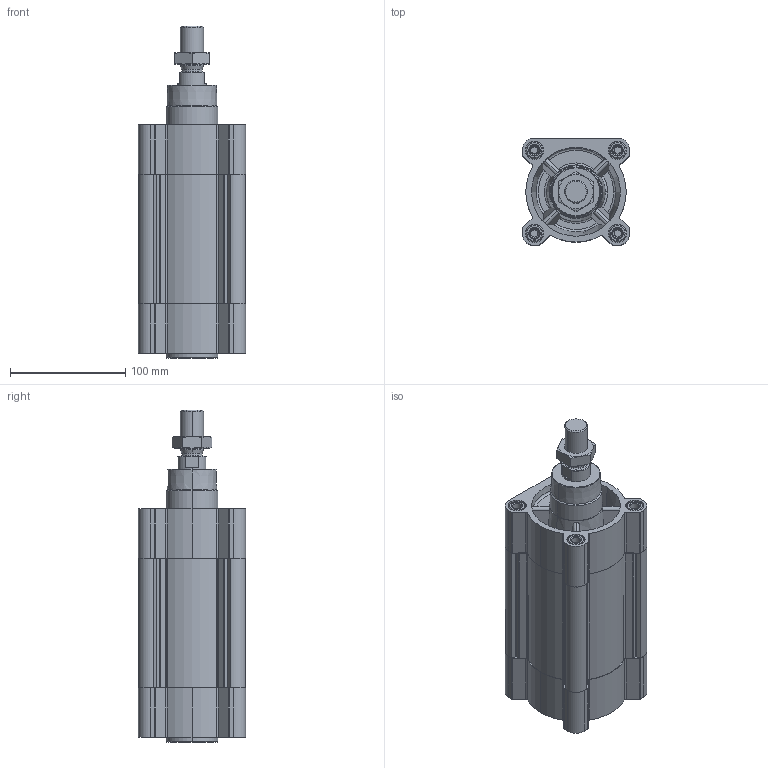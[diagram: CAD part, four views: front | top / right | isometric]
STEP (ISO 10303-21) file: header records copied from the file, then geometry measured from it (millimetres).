
FILE_DESCRIPTION (( 'STEP AP203' ), '1' );
FILE_NAME ('CPME80-70.STEP', '2025-03-05T17:06:52', ( '' ), ( '' ), 'SwSTEP 2.0', 'SolidWorks 2019', '' );
FILE_SCHEMA (( 'CONFIG_CONTROL_DESIGN' ));
Length unit declared in the file: millimetre
Products named in the file (1): CPME80-70
Bounding box: 93 x 93 x 287.6 mm (x, y, z)
Volume: 1075241 mm3; surface area: 232553.2 mm2
Topology: 3 solids, 3 shells, 533 faces, 1359 edges, 870 vertices
Faces by surface type: plane 207, cylinder 200, cone 98, torus 28
Entity records: 18683 total; most frequent: CARTESIAN_POINT 5639, DIRECTION 2751, ORIENTED_EDGE 2718, EDGE_CURVE 1359, AXIS2_PLACEMENT_3D 1049, VERTEX_POINT 870, LINE 653, VECTOR 653
